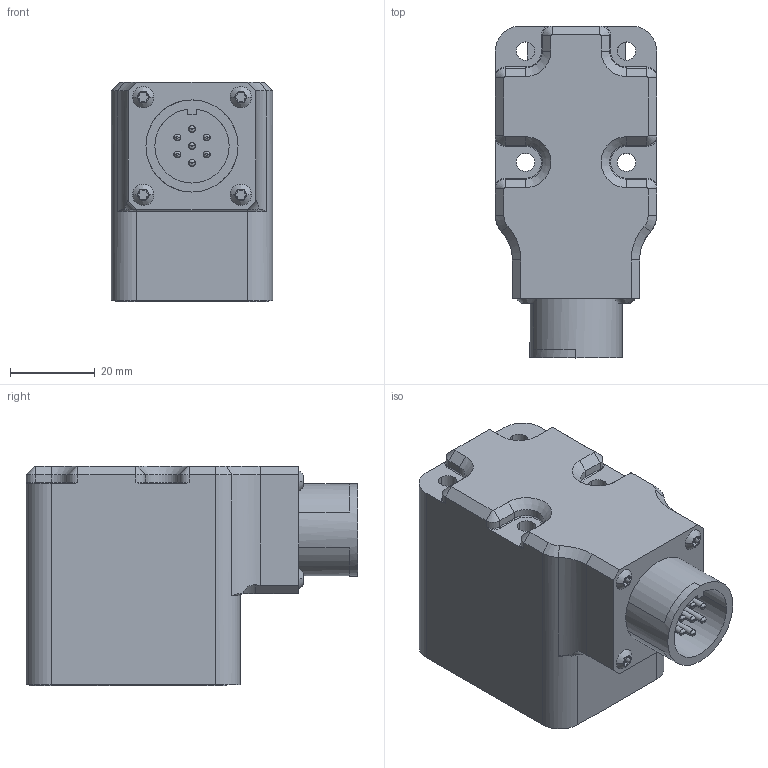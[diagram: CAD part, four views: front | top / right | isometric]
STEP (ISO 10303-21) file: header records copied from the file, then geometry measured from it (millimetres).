
FILE_DESCRIPTION((''),'2;1');
FILE_NAME('BT104177_REV_A','2023-01-09T15:02:19',('EvanLockwood'),(''),'CREO PARAMETRIC BY PTC INC, 2022284','CREO PARAMETRIC BY PTC INC, 2022284','');
FILE_SCHEMA(('AP242_MANAGED_MODEL_BASED_3D_ENGINEERING_MIM_LF { 1 0 10303 442 1 1 4 }'));
Length unit declared in the file: millimetre
Products named in the file (1): BT104177_REV_A
Bounding box: 38 x 78.2 x 51.7 mm (x, y, z)
Volume: 107076 mm3; surface area: 19245.7 mm2
Topology: 1 solids, 9 shells, 881 faces, 2302 edges, 1502 vertices
Faces by surface type: plane 393, extrusion 227, cylinder 163, cone 40, torus 36, bspline 22
Entity records: 29175 total; most frequent: CARTESIAN_POINT 8035, ORIENTED_EDGE 4588, DIRECTION 3817, EDGE_CURVE 2294, VERTEX_POINT 1502, VECTOR 1493, LINE 1266, AXIS2_PLACEMENT_3D 1162
